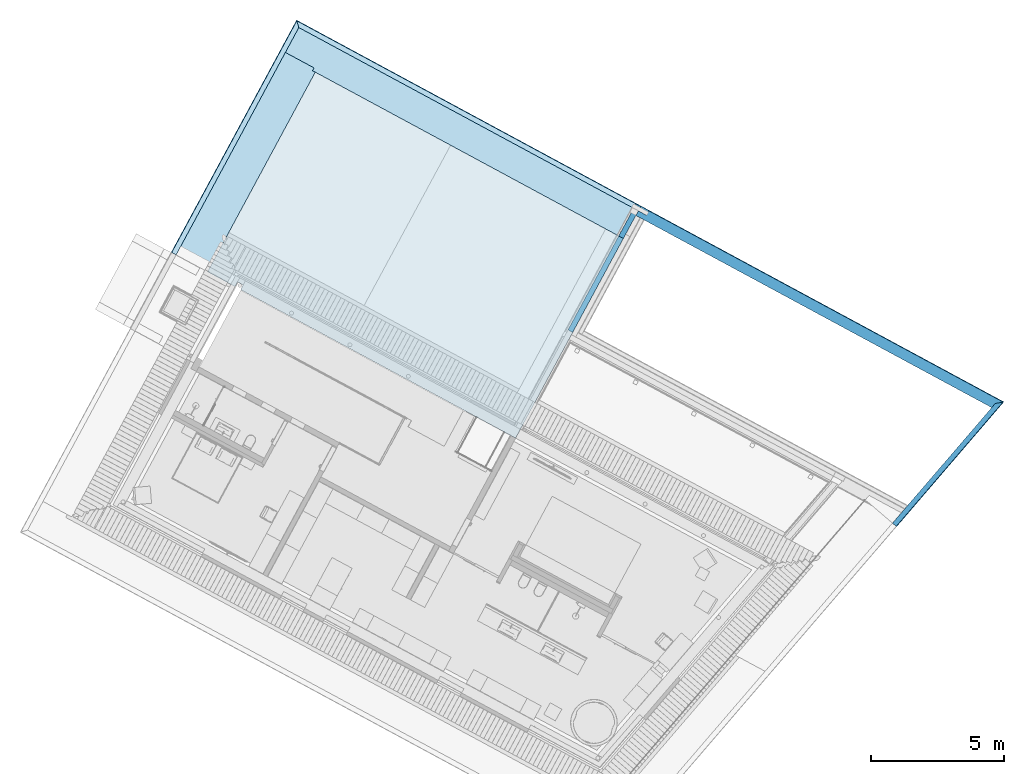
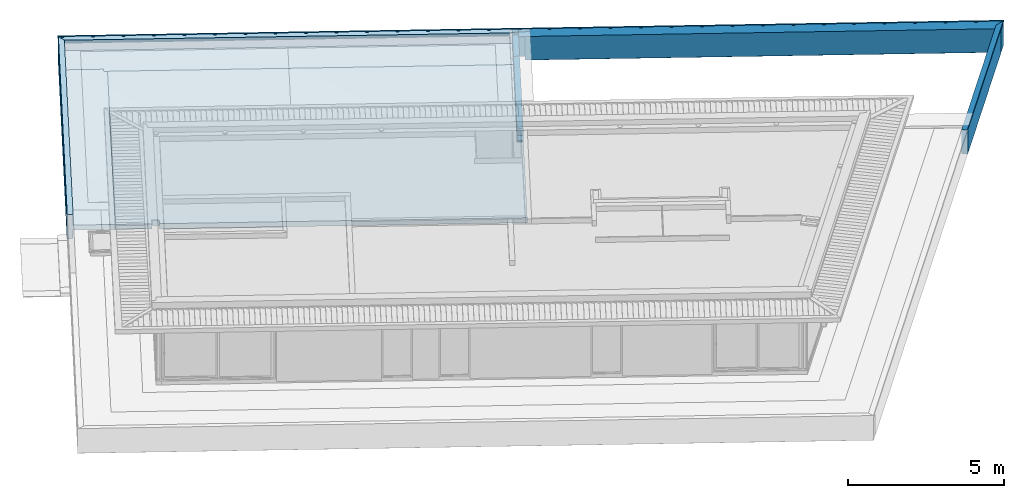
# One storey, part 4 of 48: 8 slabs.
"""IFC2X3 building model written with IfcOpenShell, lengths in metres."""

from ifc_helpers import new_model, entity, si_unit, converted_unit, derived_unit, money_unit, direction, frame, origin_with_axes, place, context, subcontext, project, spatial, faceted_brep, material, material_list, type_object, element, save


model = new_model("IFC2X3")

# Units and contexts
model_context = context("Model", 3, precision=1e-05, world=origin_with_axes(), true_north=direction((0.0, 1.0)))
body_context = subcontext(model_context, "Body", "Model", "MODEL_VIEW")
ifc_project = project(units=[si_unit("LENGTHUNIT", "METRE"), si_unit("AREAUNIT", "SQUARE_METRE"), si_unit("VOLUMEUNIT", "CUBIC_METRE"), converted_unit("PLANEANGLEUNIT", "DEGREE", entity("IfcPlaneAngleMeasure", 0.0174532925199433), si_unit("PLANEANGLEUNIT", "RADIAN"), dimensions=[0, 0, 0, 0, 0, 0, 0]), money_unit("EUR"), converted_unit("TIMEUNIT", "Year", entity("IfcTimeMeasure", 31556926.0), si_unit("TIMEUNIT", "SECOND"), dimensions=[0, 0, 1, 0, 0, 0, 0]), si_unit("MASSUNIT", "GRAM", prefix="KILO"), si_unit("THERMODYNAMICTEMPERATUREUNIT", "DEGREE_CELSIUS"), si_unit("LUMINOUSINTENSITYUNIT", "LUMEN"), si_unit("ENERGYUNIT", "JOULE", prefix="MEGA"), derived_unit("THERMALCONDUCTANCEUNIT", [(si_unit("POWERUNIT", "WATT"), 1), (si_unit("LENGTHUNIT", "METRE"), -1), (si_unit("THERMODYNAMICTEMPERATUREUNIT", "KELVIN"), -1)]), derived_unit("SPECIFICHEATCAPACITYUNIT", [(si_unit("ENERGYUNIT", "JOULE"), 1), (si_unit("MASSUNIT", "GRAM", prefix="KILO"), -1), (si_unit("THERMODYNAMICTEMPERATUREUNIT", "KELVIN"), -1)]), derived_unit("MASSDENSITYUNIT", [(si_unit("MASSUNIT", "GRAM", prefix="KILO"), 1), (si_unit("VOLUMEUNIT", "CUBIC_METRE"), -1)])], contexts=[model_context])

# Site, building, storey
site_placement = place(None, frame((-3.949935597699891, 1.740105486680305, 0.0), z_axis=(0.0, 0.0, 1.0), x_axis=(0.8799804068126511, -0.475009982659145, 0.0)))
site = spatial("IfcSite", under=ifc_project, at=site_placement, Name="Gelände", CompositionType="ELEMENT")
building_placement = place(site_placement, origin_with_axes())
building = spatial("IfcBuilding", under=site, at=building_placement, Name="Gebäude", CompositionType="ELEMENT")
storey_placement = place(building_placement, frame((0.0, 0.0, 4.55), z_axis=(0.0, 0.0, 1.0), x_axis=(1.0, 0.0, 0.0)))
storey = spatial("IfcBuildingStorey", under=building, at=storey_placement, Name="Staffelgeschoss", CompositionType="ELEMENT", Elevation=4.55)

# Slabs
ifc_material_1 = material(Name="_SIWH - Beton, Stahlbeton")
slab_type_1 = type_object("IfcSlabType", Name="_SIWH - Beton, Stahlbeton 200", PredefinedType="NOTDEFINED")
slab_1_placement = place(storey_placement, frame((17.3674759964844, 19.20028827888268, -0.6499999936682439), z_axis=(0.0, 0.0, 1.0), x_axis=(0.0, 1.0, 0.0)))
element("IfcSlab", 1, at=slab_1_placement, inside=storey, type_object=slab_type_1, material=ifc_material_1, Name="Wand-026", PredefinedType="NOTDEFINED", context=body_context, shape_type="Brep", body=[
    faceted_brep([(0.0, 0.1999999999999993, 0.5250000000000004), (0.0, 0.0, 0.5250000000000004), (1.18499388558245, 0.0, 0.5250000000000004), (1.18499388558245, 0.1999999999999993, 0.5250000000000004), (0.0, 0.1999999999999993, 0.0), (0.0, 0.0, 0.0), (1.18499388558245, 0.0, 0.0), (1.18499388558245, 0.1999999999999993, 0.0)], [[[0, 1, 2, 3]], [[4, 5, 1, 0]], [[1, 5, 6, 2]], [[7, 3, 2, 6]], [[4, 0, 3, 7]], [[5, 4, 7, 6]]]),
])
slab_2_placement = place(storey_placement, frame((17.36747696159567, 14.88304610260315, -0.4499999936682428), z_axis=(0.0, 0.0, 1.0), x_axis=(0.0, 1.0, 0.0)))
element("IfcSlab", 2, at=slab_2_placement, inside=storey, type_object=slab_type_1, material=ifc_material_1, Name="Wand-026", PredefinedType="NOTDEFINED", context=body_context, shape_type="Brep", body=[
    faceted_brep([(4.317242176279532, 0.200000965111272, 0.3249999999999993), (0.3000008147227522, 0.1999999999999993, 0.3249999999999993), (0.3000008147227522, 0.0, 0.3249999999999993), (4.317242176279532, 9.651112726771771e-07, 0.3249999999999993), (0.0, 0.1999999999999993, 0.05000000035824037), (0.3000008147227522, 0.1999999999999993, 0.05000000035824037), (4.317242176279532, 0.200000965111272, 0.0), (0.0, 0.1999999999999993, 0.0), (0.3000008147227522, 0.0, 0.05000000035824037), (0.0, 0.0, 0.05000000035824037), (0.0, 0.0, 0.0), (4.317242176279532, 9.651112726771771e-07, 0.0)], [[[0, 1, 2, 3]], [[4, 5, 1, 0, 6, 7]], [[5, 8, 2, 1]], [[2, 8, 9, 10, 11, 3]], [[6, 0, 3, 11]], [[4, 9, 8, 5]], [[7, 6, 11, 10]], [[10, 9, 4, 7]]]),
])
slab_3_placement = place(storey_placement, frame((4.182482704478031, 10.65779936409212, -0.4499999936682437), z_axis=(0.0, 0.0, 1.0), x_axis=(1.0, 0.0, 0.0)))
element("IfcSlab", 3, at=slab_3_placement, inside=storey, type_object=slab_type_1, material=ifc_material_1, Name="Decke010", PredefinedType="NOTDEFINED", context=body_context, shape_type="Brep", body=[
    faceted_brep([(0.0, 0.0, 0.0), (1.174998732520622, 0.0, 0.0), (1.174998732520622, 0.2000012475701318, 0.0), (1.414998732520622, 0.2000012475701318, 0.0), (1.414998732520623, 0.0, 0.0), (13.18499425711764, 0.0, 0.0), (13.18499425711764, 8.542475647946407, 0.0), (0.0, 8.542475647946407, 0.0), (0.0, 0.0, -0.2000000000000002), (1.174998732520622, 0.0, -0.2000000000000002), (1.174998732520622, 0.2000012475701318, -0.2000000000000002), (1.414998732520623, 0.2000012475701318, -0.2000000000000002), (1.414998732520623, 0.0, -0.2000000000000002), (13.18499425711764, 0.0, -0.2000000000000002), (13.18499425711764, 8.542475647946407, -0.2000000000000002), (0.0, 8.542475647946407, -0.2000000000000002)], [[[0, 1, 2, 3, 4, 5, 6, 7]], [[8, 9, 1, 0]], [[10, 2, 1, 9]], [[11, 3, 2, 10]], [[12, 4, 3, 11]], [[5, 4, 12, 13]], [[14, 6, 5, 13]], [[15, 7, 6, 14]], [[8, 0, 7, 15]], [[11, 10, 9, 8, 15, 14, 13, 12]]]),
])
ifc_material_2 = material(Name="_SIWH - Metall, Aluminium")
ifc_material_3 = material(Name="_SIWH - Beton, Stahlbeton Fertigteil")
ifc_material_list_1 = material_list([ifc_material_2, ifc_material_3])
slab_type_2 = type_object("IfcSlabType", Name="_SIWH - Vordach+Arkade3 nur Luftbalken 210 x 980", PredefinedType="NOTDEFINED")
slab_4_placement = place(storey_placement, frame((17.16747696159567, 19.20028216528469, -0.3999999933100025), z_axis=(0.0, 0.0, 1.0), x_axis=(1.0, 0.0, 0.0)))
element("IfcSlab", 4, at=slab_4_placement, inside=storey, type_object=slab_type_2, material=ifc_material_list_1, Name="Wand-024", PredefinedType="NOTDEFINED", context=body_context, shape_type="Brep", body=[
    faceted_brep([(0.1999990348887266, 1.37313506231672, 0.3764030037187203), (0.1999990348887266, 1.395000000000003, 0.3999999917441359), (0.0, 1.395, 0.3999999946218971), (0.0, 1.373135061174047, 0.3764030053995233), (0.1999990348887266, 1.395000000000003, 0.3449999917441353), (0.1999990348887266, 1.33315238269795, 0.3744038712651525), (0.1999990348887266, 1.333252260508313, 0.3724063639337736), (0.1999990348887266, 1.374048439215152, 0.3744461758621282), (0.1999990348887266, 1.393000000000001, 0.3948980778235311), (0.1999990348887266, 1.393000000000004, 0.3724063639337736), (0.1999990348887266, 1.393000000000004, 0.3699875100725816), (0.1999990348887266, 1.393000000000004, 0.3449999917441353), (0.0, 1.395000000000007, 0.3449999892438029), (0.0, 1.333152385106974, 0.3744038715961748), (0.0, 1.393000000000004, 0.3449999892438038), (0.0, 1.393000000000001, 0.3948980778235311), (0.0, 1.374048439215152, 0.3744461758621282), (0.0, 1.33325226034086, 0.3724063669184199)], [[[0, 1, 2, 3]], [[4, 1, 0, 5, 6, 7, 8, 9, 10, 11]], [[1, 4, 12, 2]], [[13, 3, 2, 12, 14, 15, 16, 17]], [[5, 0, 3, 13]], [[6, 5, 13, 17]], [[7, 6, 17, 16]], [[8, 7, 16, 15]], [[9, 8, 15, 14, 11, 10]], [[4, 11, 14, 12]]]),
    faceted_brep([(0.1999990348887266, 1.185000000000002, 0.3350000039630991), (0.5399912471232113, 1.185000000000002, 0.3350000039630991), (0.5399912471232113, 1.385000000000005, 0.3350000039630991), (0.1999990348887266, 1.385000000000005, 0.3350000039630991), (0.0, 1.184999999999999, -0.5700000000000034), (0.5399912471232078, 1.184999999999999, -0.569999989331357), (0.1999990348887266, 1.185000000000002, 0.3599875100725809), (0.0, 1.184999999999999, 0.3599875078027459), (0.5399912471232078, 1.339999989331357, -0.569999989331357), (0.5399912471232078, 1.385000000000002, -0.569999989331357), (0.5399912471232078, 1.330000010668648, -0.569999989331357), (0.5399912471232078, 1.335000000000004, -0.5650000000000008), (0.0, 1.385000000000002, -0.5700000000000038), (0.0, 1.385000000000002, 0.3699875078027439), (0.1999990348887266, 1.385000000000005, 0.3699875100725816), (0.1999990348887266, 1.385000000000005, 0.3449999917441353), (0.0, 1.194999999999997, -0.5800000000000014), (0.5299912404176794, 1.194999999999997, -0.5799999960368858), (0.0, 1.374999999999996, -0.5800000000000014), (0.0, 1.349999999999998, -0.5800000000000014), (0.0, 1.335000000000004, -0.5650000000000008), (0.0, 1.320000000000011, -0.5800000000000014), (0.5299912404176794, 1.349999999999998, -0.5799999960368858), (0.5299912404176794, 1.374999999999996, -0.5799999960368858), (0.5299912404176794, 1.320000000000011, -0.5799999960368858)], [[[0, 1, 2, 3]], [[4, 5, 1, 0, 6, 7]], [[8, 9, 2, 1, 5, 10, 11]], [[3, 2, 9, 12, 13, 14, 15]], [[3, 15, 14, 6, 0]], [[16, 17, 5, 4]], [[7, 6, 14, 13]], [[13, 12, 18, 19, 20, 21, 16, 4, 7]], [[22, 23, 9, 8]], [[17, 24, 10, 5]], [[11, 10, 24, 21, 20]], [[22, 8, 11, 20, 19]], [[12, 9, 23, 18]], [[21, 24, 17, 16]], [[18, 23, 22, 19]]]),
])
slab_5_placement = place(storey_placement, frame((31.17000734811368, 19.20028216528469, -0.3999999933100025), z_axis=(0.0, 0.0, 1.0), x_axis=(-0.213378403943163, -0.9769696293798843, 0.0)))
element("IfcSlab", 5, at=slab_5_placement, inside=storey, type_object=slab_type_2, material=ifc_material_list_1, Name="Wand-024", PredefinedType="NOTDEFINED", context=body_context, shape_type="Brep", body=[
    faceted_brep([(4.468686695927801, 1.333252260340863, 0.3724063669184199), (4.468686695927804, 1.333152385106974, 0.3744038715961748), (-1.655750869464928, 1.333152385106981, 0.3744038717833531), (-1.655874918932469, 1.333252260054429, 0.3724063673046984), (4.468686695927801, 1.393000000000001, 0.3948980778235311), (4.468686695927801, 1.393000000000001, 0.3449999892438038), (4.468686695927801, 1.395000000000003, 0.3449999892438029), (4.468686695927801, 1.395, 0.3999999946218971), (4.468686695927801, 1.373135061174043, 0.3764030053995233), (4.468686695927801, 1.374048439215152, 0.3744461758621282), (-1.70540862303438, 1.373135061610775, 0.3764030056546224), (-1.664498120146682, 1.373202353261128, 0.3744038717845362), (-1.665549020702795, 1.374048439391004, 0.3744461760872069), (-1.727288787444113, 1.392999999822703, 0.3948980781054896), (-1.730080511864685, 1.392999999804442, 0.3948980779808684), (-1.730080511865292, 1.392999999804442, 0.3724063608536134), (-1.730080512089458, 1.393000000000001, 0.3699875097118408), (-1.730080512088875, 1.393000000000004, 0.3449999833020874), (-1.730517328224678, 1.394999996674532, 0.3449999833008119), (-1.730517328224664, 1.394999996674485, 0.3699875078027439), (-1.730517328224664, 1.394999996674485, 0.3724063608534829), (-1.730517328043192, 1.394999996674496, 0.3948980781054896), (-1.727725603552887, 1.394999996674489, 0.3948980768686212), (-1.732564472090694, 1.395, 0.3999999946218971), (-1.72669309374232, 1.390272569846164, 0.3948980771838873), (-1.70600414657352, 1.375861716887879, 0.3764030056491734)], [[[0, 1, 2, 3]], [[4, 5, 6, 7, 8, 1, 0, 9]], [[2, 1, 8, 10]], [[3, 2, 11]], [[9, 0, 3, 11, 12]], [[5, 4, 13, 14, 15, 16, 17]], [[6, 5, 17, 18]], [[7, 6, 18, 19, 20, 21, 22, 23]], [[8, 7, 23, 24, 10]], [[4, 9, 12, 25, 13]], [[11, 2, 10, 25, 12]], [[14, 13, 22, 21]], [[15, 14, 21, 20]], [[16, 15, 20, 19]], [[17, 16, 19, 18]], [[13, 24, 23, 22]], [[13, 25, 10, 24]]]),
    faceted_brep([(3.750764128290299, 1.184999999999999, -0.5700000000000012), (3.750764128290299, 1.184999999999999, -0.5650000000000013), (3.744239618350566, 1.214872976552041, -0.5650000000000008), (3.744239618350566, 1.214872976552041, -0.5699999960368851), (4.468686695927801, 1.184999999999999, -0.5700000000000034), (4.468686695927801, 1.184999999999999, 0.3599875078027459), (-1.471748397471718, 1.184999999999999, 0.3599875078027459), (-1.26703366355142, 1.184999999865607, 0.3499874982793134), (-1.267033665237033, 1.184999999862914, 0.3449999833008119), (-1.267033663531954, 1.184999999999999, -0.5650000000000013), (-1.267033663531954, 1.184999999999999, -0.5700000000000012), (3.607463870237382, 1.184999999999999, -0.5700000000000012), (3.607463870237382, 1.184999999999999, -0.5650000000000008), (3.607463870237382, 1.184999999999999, 0.3350000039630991), (3.750764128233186, 1.185000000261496, 0.3350000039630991), (3.744239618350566, 1.214872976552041, 0.3350000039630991), (3.734469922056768, 1.212739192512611, -0.5799999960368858), (3.653249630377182, 1.195, -0.5800000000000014), (3.738344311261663, 1.195, -0.5800000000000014), (4.468686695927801, 1.194999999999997, -0.5800000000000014), (4.468686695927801, 1.320000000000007, -0.5800000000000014), (4.468686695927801, 1.335000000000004, -0.5650000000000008), (4.468686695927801, 1.349999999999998, -0.5800000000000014), (4.468686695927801, 1.375, -0.5800000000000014), (4.468686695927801, 1.385000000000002, -0.5700000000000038), (4.468686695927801, 1.385000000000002, 0.3699875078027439), (-1.720144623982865, 1.385000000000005, 0.3699875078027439), (-1.3107153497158, 1.384999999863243, 0.3499874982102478), (-1.310715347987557, 1.384999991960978, 0.3449999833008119), (-1.310715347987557, 1.384999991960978, -0.5649999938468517), (-1.299794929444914, 1.335000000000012, -0.5650000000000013), (-1.298702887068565, 1.330000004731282, -0.5699999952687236), (-1.279453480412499, 1.195000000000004, -0.5800000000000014), (-1.306754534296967, 1.32, -0.5800000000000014), (-1.658045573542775, 1.334999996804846, -0.5649999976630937), (-1.676675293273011, 1.349999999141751, -0.5800000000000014), (-1.682135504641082, 1.375000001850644, -0.5800000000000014), (-1.674083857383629, 1.384999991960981, -0.569999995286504), (-1.668965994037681, 1.384999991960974, -0.5649999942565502)], [[[0, 1, 2, 3]], [[4, 5, 6, 7, 8, 9, 10, 11, 12, 13, 14, 1, 0]], [[2, 1, 14, 15]], [[16, 3, 2, 12, 11, 17]], [[3, 16, 18, 0]], [[19, 20, 21, 22, 23, 24, 25, 5, 4]], [[5, 25, 26, 6]], [[27, 7, 6, 26]], [[8, 7, 27, 28]], [[28, 29, 30, 9, 8]], [[31, 10, 9, 30]], [[17, 11, 10, 32]], [[2, 15, 13, 12]], [[13, 15, 14]], [[19, 4, 0, 18]], [[20, 19, 18, 16, 17, 32, 33]], [[21, 20, 33, 31, 30]], [[22, 21, 30, 34, 35]], [[23, 22, 35, 36]], [[24, 23, 36, 37]], [[25, 24, 37, 38, 29, 28, 27, 26]], [[30, 29, 38, 34]], [[31, 33, 32, 10]], [[37, 36, 35, 34, 38]]]),
])
slab_type_3 = type_object("IfcSlabType", Name="_SIWH - Vordach Luftbalken2 410 x 980", PredefinedType="NOTDEFINED")
slab_6_placement = place(storey_placement, frame((17.36747696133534, 19.20028216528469, -0.3999999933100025), z_axis=(0.0, 0.0, 1.0), x_axis=(1.0, 0.0, 0.0)))
element("IfcSlab", 6, at=slab_6_placement, inside=storey, type_object=slab_type_3, material=ifc_material_list_1, Name="Wand-024", PredefinedType="NOTDEFINED", context=body_context, shape_type="Brep", body=[
    faceted_brep([(15.5320152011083, 1.390272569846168, 0.3948980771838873), (15.53261089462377, 1.392999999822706, 0.3948980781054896), (15.53465804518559, 1.392999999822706, 0.3948980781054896), (15.53406235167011, 1.390272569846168, 0.3948980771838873), (15.50907338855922, 1.374048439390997, 0.3744461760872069), (15.51072993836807, 1.373135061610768, 0.3764030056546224), (15.50032613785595, 1.333998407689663, 0.374446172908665), (15.53465804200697, 1.393000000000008, 0.3449999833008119), (0.0, 1.393000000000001, 0.3948980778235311), (0.0, 1.393000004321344, 0.3724063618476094), (0.0, 1.393000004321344, 0.3699875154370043), (0.0, 1.393000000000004, 0.3449999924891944), (15.53509485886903, 1.395000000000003, 0.3999999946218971), (15.53509485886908, 1.395000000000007, 0.3449999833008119), (0.0, 1.39500000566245, 0.3999999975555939), (0.0, 1.373135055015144, 0.3764030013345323), (0.0, 1.374048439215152, 0.3744461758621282), (0.0, 1.333152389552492, 0.3744038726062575), (15.49927539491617, 1.333152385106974, 0.3744038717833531), (15.45840527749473, 1.333252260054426, 0.3724063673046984), (0.0, 1.333252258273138, 0.3724063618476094), (0.0, 1.394999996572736, 0.3449999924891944)], [[[0, 1, 2, 3]], [[4, 1, 0, 5, 6]], [[7, 2, 1, 8, 9, 10, 11]], [[12, 3, 2, 7, 13]], [[5, 0, 3, 12, 14, 15]], [[1, 4, 16, 8]], [[6, 5, 15, 17, 18]], [[19, 4, 6, 18]], [[8, 16, 20, 17, 15, 14, 21, 11, 10, 9]], [[11, 21, 13, 7]], [[21, 14, 12, 13]], [[4, 19, 20, 16]], [[19, 18, 17, 20]]]),
    faceted_brep([(0.1999912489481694, 0.985000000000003, 0.3350000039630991), (0.0, 0.9850000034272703, 0.3350000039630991), (0.0, 1.185000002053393, 0.3350000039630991), (0.09999124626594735, 1.185000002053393, 0.3350000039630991), (0.1999912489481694, 1.185000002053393, 0.3350000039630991), (0.0, 0.9850000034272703, 0.3499875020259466), (0.1999912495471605, 0.9849999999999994, -0.5699999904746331), (15.37901513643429, 0.985000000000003, -0.570000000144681), (15.3841330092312, 0.985000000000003, -0.5649999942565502), (15.43531167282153, 0.985000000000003, -0.5649999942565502), (15.43531166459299, 0.985000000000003, 0.3449999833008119), (15.43531167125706, 0.9850000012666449, 0.3499874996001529), (0.0, 1.384999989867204, 0.3699875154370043), (0.0, 1.384999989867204, 0.3449999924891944), (0.0, 1.385000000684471, 0.3350000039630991), (0.09999124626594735, 1.385000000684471, 0.3350000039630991), (0.3399912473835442, 1.385000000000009, 0.3350000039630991), (0.3399912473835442, 1.185000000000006, 0.3350000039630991), (0.1999912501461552, 1.185000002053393, -0.5699999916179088), (0.1999912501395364, 1.185000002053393, -0.5650000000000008), (0.2099912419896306, 0.995000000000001, -0.5799999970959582), (15.37096348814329, 0.9949999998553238, -0.5800000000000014), (15.44194622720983, 1.319999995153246, -0.5800000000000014), (15.46057595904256, 1.335000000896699, -0.5649999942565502), (15.51175461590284, 1.335000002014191, -0.5649999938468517), (15.51284665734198, 1.339999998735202, -0.569999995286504), (15.52267503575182, 1.38499999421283, -0.569999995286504), (15.52267503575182, 1.38499999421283, 0.3449999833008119), (15.52267505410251, 1.384999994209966, 0.3699875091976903), (0.3399912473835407, 1.385000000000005, -0.569999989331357), (0.3399912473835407, 1.385000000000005, -0.5650000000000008), (0.3399912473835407, 1.185000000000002, -0.5650000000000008), (0.3399912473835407, 1.335000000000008, -0.5650000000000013), (0.2099912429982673, 1.19499999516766, -0.5799999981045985), (0.3399912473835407, 1.185000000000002, -0.569999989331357), (0.3299912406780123, 1.195000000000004, -0.5799999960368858), (0.3299912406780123, 1.320000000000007, -0.5799999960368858), (0.3399912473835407, 1.330000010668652, -0.569999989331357), (0.3399912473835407, 1.339999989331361, -0.569999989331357), (0.3299912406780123, 1.350000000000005, -0.5799999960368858), (15.50479501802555, 1.349999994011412, -0.5800000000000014), (15.51025523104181, 1.37500000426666, -0.5800000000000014), (0.3299912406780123, 1.375000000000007, -0.5799999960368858)], [[[0, 1, 2, 3, 4]], [[5, 1, 0, 6, 7, 8, 9, 10, 11]], [[1, 5, 12, 13, 14, 2]], [[15, 3, 2, 14]], [[3, 15, 16, 17, 4]], [[18, 6, 0, 4, 19]], [[6, 20, 21, 7]], [[8, 7, 21, 22, 23]], [[9, 8, 23, 24]], [[10, 9, 24, 25, 26, 27]], [[11, 10, 27, 28]], [[12, 5, 11, 28]], [[15, 14, 13, 12, 28, 27, 26, 29, 30, 16]], [[31, 17, 16, 30, 32]], [[19, 4, 17, 31]], [[20, 6, 18, 33]], [[18, 19, 31, 34]], [[20, 33, 35, 36, 22, 21]], [[22, 36, 37, 32, 23]], [[38, 39, 40, 25, 24, 23, 32]], [[40, 41, 26, 25]], [[41, 42, 29, 26]], [[30, 29, 38, 32]], [[32, 37, 34, 31]], [[33, 18, 34, 35]], [[36, 35, 34, 37]], [[42, 39, 38, 29]], [[39, 42, 41, 40]]]),
])
ifc_material_4 = material(Name="_SIWH - Dämmung, weich Mineralwolle")
ifc_material_list_2 = material_list([ifc_material_2, ifc_material_3, ifc_material_1, ifc_material_4])
slab_type_4 = type_object("IfcSlabType", Name="_SIWH - Vordach+Arkade2 1555 x 980", PredefinedType="NOTDEFINED")
slab_7_placement = place(storey_placement, frame((4.182489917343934, 10.65779936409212, -0.3999999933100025), z_axis=(0.0, 0.0, 1.0), x_axis=(0.0, 1.0, 0.0)))
element("IfcSlab", 7, at=slab_7_placement, inside=storey, type_object=slab_type_4, material=ifc_material_list_2, Name="Wand-024", PredefinedType="NOTDEFINED", context=body_context, shape_type="Brep", body=[
    faceted_brep([(0.0, 1.555000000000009, 0.3449999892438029), (0.0, 1.555000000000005, 0.3999999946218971), (9.937482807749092, 1.555000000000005, 0.3999999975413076), (9.932755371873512, 1.555000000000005, 0.3948980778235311), (9.935482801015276, 1.555000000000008, 0.3948980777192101), (9.935482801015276, 1.555000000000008, 0.372406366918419), (9.935482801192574, 1.555000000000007, 0.3699875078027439), (9.935482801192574, 1.555000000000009, 0.3449999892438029), (0.0, 1.553000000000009, 0.3449999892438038), (0.0, 1.553000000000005, 0.3948980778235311), (0.0, 1.534048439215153, 0.3744461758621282), (0.0, 1.493252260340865, 0.372406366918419), (0.0, 1.493152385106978, 0.3744038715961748), (0.0, 1.53313506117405, 0.3764030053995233), (9.915617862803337, 1.533135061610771, 0.3764030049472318), (9.93275537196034, 1.550272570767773, 0.394898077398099), (9.93275537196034, 1.552999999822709, 0.394898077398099), (9.935482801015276, 1.552999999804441, 0.3948980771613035), (9.935482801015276, 1.552999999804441, 0.372406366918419), (9.935482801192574, 1.553000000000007, 0.3699875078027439), (9.935482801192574, 1.553000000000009, 0.3449999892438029), (9.915617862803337, 1.535861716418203, 0.3764030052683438), (9.876481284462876, 1.534048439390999, 0.3744461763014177), (9.875635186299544, 1.533202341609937, 0.3744038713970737), (9.87573506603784, 1.49325226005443, 0.3724063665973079), (9.875635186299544, 1.493152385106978, 0.374403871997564)], [[[0, 1, 2, 3, 4, 5, 6, 7]], [[0, 8, 9, 10, 11, 12, 13, 1]], [[2, 1, 13, 14, 15]], [[3, 2, 15, 16]], [[4, 3, 16, 17]], [[17, 18, 5, 4]], [[6, 5, 18, 19]], [[7, 6, 19, 20]], [[8, 0, 7, 20]], [[9, 8, 20, 19, 18, 17, 16]], [[10, 9, 16, 21, 22]], [[11, 10, 22, 23, 24]], [[12, 11, 24, 25]], [[14, 13, 12, 25]], [[21, 16, 15, 14]], [[23, 22, 21, 14, 25]], [[24, 23, 25]]]),
    faceted_brep([(0.0, 1.545000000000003, -0.5700000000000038), (0.0, 1.545000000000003, 0.3699875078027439), (9.927482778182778, 1.545000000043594, 0.3699875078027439), (9.727482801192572, 1.545000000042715, 0.3599875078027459), (9.727482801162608, 1.545000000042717, 0.3449999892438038), (9.727482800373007, 1.545000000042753, -0.05000000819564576), (9.727482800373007, 1.545000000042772, -0.2500000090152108), (9.727482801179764, 1.545000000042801, -0.5650000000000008), (9.87748280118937, 1.545000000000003, -0.5649999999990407), (9.88248279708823, 1.545000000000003, -0.5699999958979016), (0.0, 1.534999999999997, -0.5800000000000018), (0.0, 1.509999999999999, -0.5800000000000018), (0.0, 1.495000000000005, -0.5650000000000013), (0.0, 1.480000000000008, -0.5800000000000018), (0.0, 1.354999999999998, -0.5800000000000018), (0.0, 1.345, -0.5700000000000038), (0.0, 1.344999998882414, -0.2500000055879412), (0.0, 1.344999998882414, -0.05000000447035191), (0.0, 1.345, 0.3599875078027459), (9.727482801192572, 1.345000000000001, 0.3599875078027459), (9.727482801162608, 1.344999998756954, 0.3449999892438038), (9.727482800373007, 1.344999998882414, -0.05000000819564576), (9.727482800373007, 1.344999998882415, -0.2500000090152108), (9.727482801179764, 1.344999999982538, -0.5649999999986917), (9.727482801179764, 1.494999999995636, -0.5649999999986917), (9.87748280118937, 1.494999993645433, -0.5649999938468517), (9.892482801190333, 1.534999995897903, -0.5800000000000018), (9.892482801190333, 1.509999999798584, -0.5800000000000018), (9.727482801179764, 1.489999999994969, -0.5699999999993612), (9.737482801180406, 1.479999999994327, -0.5800000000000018), (9.737482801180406, 1.354999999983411, -0.5800000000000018), (9.727482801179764, 1.344999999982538, -0.5699999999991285)], [[[0, 1, 2, 3, 4, 5, 6, 7, 8, 9]], [[0, 10, 11, 12, 13, 14, 15, 16, 17, 18, 1]], [[2, 1, 18, 19]], [[3, 2, 19]], [[4, 3, 19, 20]], [[5, 4, 20, 21]], [[6, 5, 21, 22]], [[7, 6, 22, 23, 24]], [[8, 7, 24, 25]], [[26, 9, 8, 25, 27]], [[10, 0, 9, 26]], [[11, 10, 26, 27]], [[12, 11, 27, 25, 24]], [[13, 12, 24, 28, 29]], [[14, 13, 29, 30]], [[15, 14, 30, 31]], [[16, 15, 31, 23, 22]], [[17, 16, 22, 21]], [[18, 17, 21, 20, 19]], [[28, 24, 23, 31]], [[30, 29, 28, 31]]]),
    faceted_brep([(8.662482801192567, 0.1199999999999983, -0.2500000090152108), (8.662482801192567, 0.1199999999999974, -0.05000000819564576), (0.0, 0.1199999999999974, -0.05000000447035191), (0.0, 0.1199999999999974, -0.2500000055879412), (8.662482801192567, 1.344999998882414, -0.05000000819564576), (8.662482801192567, 1.344999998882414, -0.2500000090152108), (0.0, 1.344999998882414, -0.05000000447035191), (0.0, 1.344999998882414, -0.2500000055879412)], [[[0, 1, 2, 3]], [[4, 1, 0, 5]], [[1, 4, 6, 2]], [[2, 6, 7, 3]], [[5, 0, 3, 7]], [[4, 5, 7, 6]]]),
    faceted_brep([(8.54248280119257, 0.0, -0.2499999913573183), (8.54248280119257, 0.0, -0.05000000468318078), (0.0, 0.0, -0.05000000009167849), (0.0, 0.0, -0.2500000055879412), (8.54248280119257, 0.1199999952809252, -0.05000000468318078), (8.54248280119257, 0.1199999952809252, -0.2499999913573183), (0.0, 0.1199999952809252, -0.05000000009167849), (0.0, 0.1199999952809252, -0.2500000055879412)], [[[0, 1, 2, 3]], [[4, 1, 0, 5]], [[1, 4, 6, 2]], [[7, 3, 2, 6]], [[5, 0, 3, 7]], [[4, 5, 7, 6]]]),
])
slab_type_5 = type_object("IfcSlabType", Name="_SIWH - Vordach+Arkade3 1395 x 980", PredefinedType="NOTDEFINED")
slab_8_placement = place(storey_placement, frame((4.182489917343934, 19.20028216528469, -0.3999999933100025), z_axis=(0.0, 0.0, 1.0), x_axis=(1.0, 0.0, 0.0)))
element("IfcSlab", 8, at=slab_8_placement, inside=storey, type_object=slab_type_5, material=ifc_material_list_2, Name="Wand-024", PredefinedType="NOTDEFINED", context=body_context, shape_type="Brep", body=[
    faceted_brep([(-1.533202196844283, 1.333152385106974, 0.3744038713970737), (-1.493252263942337, 1.333252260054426, 0.3724063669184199), (12.98498704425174, 1.333252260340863, 0.3724063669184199), (12.98498704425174, 1.333152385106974, 0.3744038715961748), (-1.534048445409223, 1.374048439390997, 0.3744461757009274), (-1.534048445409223, 1.333998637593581, 0.3744461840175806), (12.98498704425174, 1.374048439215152, 0.3744461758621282), (12.98498704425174, 1.395000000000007, 0.344999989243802), (12.98498704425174, 1.395000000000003, 0.3999999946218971), (12.98498704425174, 1.373135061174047, 0.3764030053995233), (12.98498704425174, 1.393000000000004, 0.3948980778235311), (12.98498704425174, 1.393000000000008, 0.3449999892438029), (-1.535861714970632, 1.373135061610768, 0.3764030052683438), (-1.552999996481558, 1.392999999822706, 0.3948980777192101), (-1.552999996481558, 1.39027257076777, 0.3948980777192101), (-1.555000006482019, 1.395000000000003, 0.3449999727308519), (-1.555000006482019, 1.395000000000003, 0.400000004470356), (-1.555000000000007, 1.39027257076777, 0.3948980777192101), (-1.555000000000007, 1.392999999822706, 0.3948980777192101), (-1.555000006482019, 1.393000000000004, 0.3449999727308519)], [[[0, 1, 2, 3]], [[4, 1, 0, 5]], [[1, 4, 6, 2]], [[7, 8, 9, 3, 2, 6, 10, 11]], [[5, 0, 3, 9, 12]], [[13, 4, 5, 12, 14]], [[4, 13, 10, 6]], [[7, 15, 16, 8]], [[14, 12, 9, 8, 16, 17]], [[13, 18, 19, 11, 10]], [[11, 19, 15, 7]], [[13, 14, 17, 18]], [[18, 17, 16, 15, 19]]]),
    faceted_brep([(-1.480000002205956, 1.194999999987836, -0.5800000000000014), (-1.480000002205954, 1.31999999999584, -0.5800000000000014), (12.98498704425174, 1.320000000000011, -0.5800000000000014), (12.98498704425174, 1.195, -0.5800000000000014), (-1.495000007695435, 1.3349999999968, -0.5649999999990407), (-1.490000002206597, 1.184999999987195, -0.5699999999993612), (-1.495000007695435, 1.184999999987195, -0.5649999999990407), (12.98498704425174, 1.335000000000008, -0.5650000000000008), (12.98498704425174, 1.350000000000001, -0.5800000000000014), (12.98498704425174, 1.375, -0.5800000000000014), (12.98498704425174, 1.385000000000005, -0.5700000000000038), (12.98498704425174, 1.385000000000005, 0.3699875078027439), (12.98498704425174, 1.185000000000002, 0.3599875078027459), (12.98498704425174, 1.184999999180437, -0.05000000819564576), (12.98498704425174, 1.184999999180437, -0.2500000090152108), (12.98498704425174, 1.185000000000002, -0.5700000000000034), (-1.545000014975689, 1.184999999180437, -0.2500000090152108), (-1.545000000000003, 1.184999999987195, -0.5649999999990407), (-1.545000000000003, 1.3349999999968, -0.5649999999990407), (-1.545000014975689, 1.340000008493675, -0.5700000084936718), (-1.534999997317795, 1.350000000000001, -0.5800000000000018), (-1.534999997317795, 1.375, -0.5800000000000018), (-1.545000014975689, 1.385000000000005, -0.5700000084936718), (-1.545000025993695, 1.385000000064, 0.3449999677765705), (-1.545000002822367, 1.385000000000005, 0.3699875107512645), (-1.545000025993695, 1.185000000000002, 0.3599875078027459), (-1.545000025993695, 1.184999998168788, 0.3449999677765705), (-1.545000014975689, 1.184999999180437, -0.05000000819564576)], [[[0, 1, 2, 3]], [[4, 1, 0, 5, 6]], [[1, 4, 7, 2]], [[7, 8, 9, 10, 11, 12, 13, 14, 15, 3, 2]], [[5, 0, 3, 15]], [[6, 5, 15, 14, 16, 17]], [[4, 6, 17, 18]], [[4, 18, 19, 20, 8, 7]], [[8, 20, 21, 9]], [[9, 21, 22, 10]], [[23, 24, 11, 10, 22]], [[24, 25, 12, 11]], [[25, 26, 27, 13, 12]], [[13, 27, 16, 14]], [[18, 17, 16, 27, 26, 23, 22, 19]], [[19, 22, 21, 20]], [[25, 24, 23, 26]]]),
    faceted_brep([(-1.344999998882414, 1.184999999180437, -0.2500000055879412), (-1.344999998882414, 1.184999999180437, -0.05000000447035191), (12.98498704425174, 1.184999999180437, -0.05000000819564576), (12.98498704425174, 1.184999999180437, -0.2500000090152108), (-1.344999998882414, 0.1199999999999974, -0.05000000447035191), (-1.344999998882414, 0.1199999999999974, -0.2500000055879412), (12.98498704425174, 0.1199999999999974, -0.05000000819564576), (12.98498704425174, 0.1199999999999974, -0.2500000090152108)], [[[0, 1, 2, 3]], [[4, 1, 0, 5]], [[1, 4, 6, 2]], [[6, 7, 3, 2]], [[5, 0, 3, 7]], [[4, 5, 7, 6]]]),
    faceted_brep([(-0.1199999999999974, 0.1200000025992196, -0.2500000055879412), (-0.1199999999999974, 0.1200000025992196, -0.05000000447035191), (12.98498704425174, 0.1200000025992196, -0.05000000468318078), (12.98498704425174, 0.1200000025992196, -0.2500000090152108), (-0.1199999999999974, 0.0, -0.05000000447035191), (-0.1199999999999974, 0.0, -0.2500000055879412), (12.98498704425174, 0.0, -0.05000000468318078), (12.98498704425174, 0.0, -0.2499999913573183)], [[[0, 1, 2, 3]], [[4, 1, 0, 5]], [[1, 4, 6, 2]], [[3, 2, 6, 7]], [[5, 0, 3, 7]], [[4, 5, 7, 6]]]),
])

save(model, "model.ifc")
